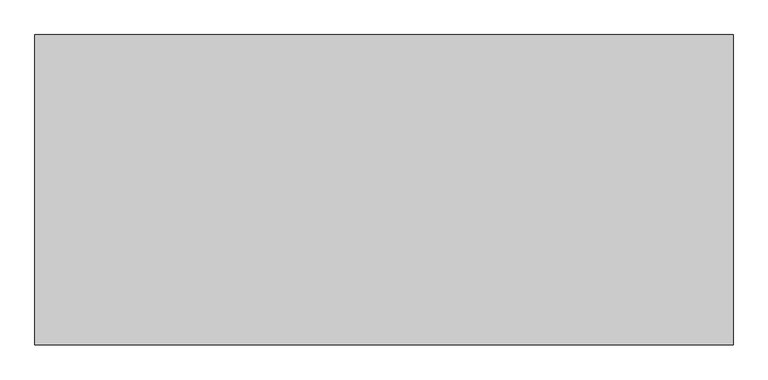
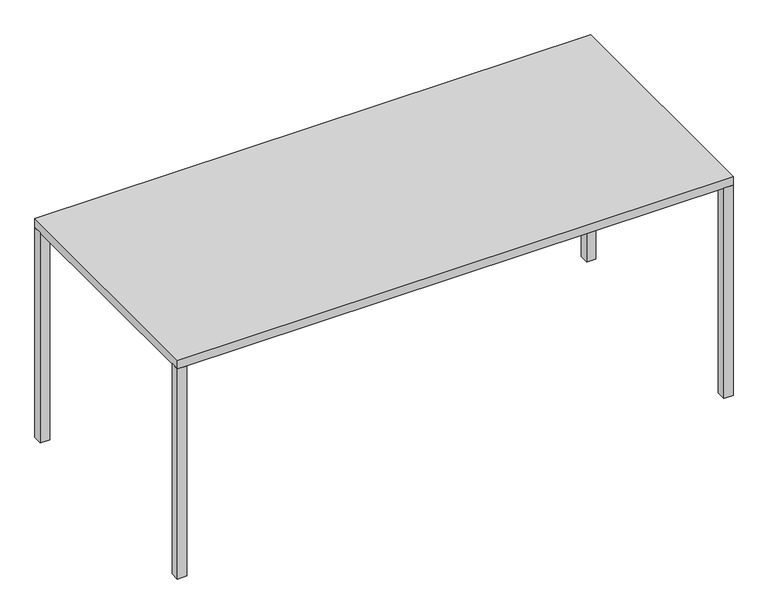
"""IFC4 building model written with IfcOpenShell, lengths in millimetres: furniture geometry, Esstisch mit Stühlen : 140 x 80 x 75 - 4 Stühle."""

from ifc_helpers import new_model, si_unit, frame, origin, origin_with_axes, place, context, project, spatial, polyline, outline, extrude, source, transform, mapped, element, save


def furniture_130fb363(model_context):
    return source(origin(), model_context, "Body", "SweptSolid", [
        extrude(outline(polyline([(-1556.564671, 400.0), (-1556.564671, 370.0), (-1586.564671, 370.0), (-1586.564671, 400.0), (-1556.564671, 400.0)])), origin_with_axes(), (0.0, 0.0, 1.0), 720.0),
        extrude(outline(polyline([(-1556.564671, -400.0), (-1586.564671, -400.0), (-1586.564671, -370.0), (-1556.564671, -370.0), (-1556.564671, -400.0)])), origin_with_axes(), (0.0, 0.0, 1.0), 720.0),
        extrude(outline(polyline([(183.435329, 400.0), (213.435329, 400.0), (213.435329, 370.0), (183.435329, 370.0), (183.435329, 400.0)])), origin_with_axes(), (0.0, 0.0, 1.0), 720.0),
        extrude(outline(polyline([(183.435329, -400.0), (183.435329, -370.0), (213.435329, -370.0), (213.435329, -400.0), (183.435329, -400.0)])), origin_with_axes(), (0.0, 0.0, 1.0), 720.0),
        extrude(outline(polyline([(213.435329, 400.0), (213.435329, -400.0), (-1586.564671, -400.0), (-1586.564671, 400.0), (213.435329, 400.0)])), frame((0.0, 0.0, 720.0), z_axis=(0.0, 0.0, 1.0), x_axis=(1.0, 0.0, 0.0)), (0.0, 0.0, 1.0), 30.0),
    ])


if __name__ == "__main__":
    model = new_model("IFC4")
    model_context = context("Model", 3, world=origin())
    ifc_project = project(units=[si_unit("LENGTHUNIT", "METRE", prefix="MILLI")], contexts=[model_context])
    site = spatial("IfcSite", under=ifc_project)
    building = spatial("IfcBuilding", under=site)
    placement = place(None, origin())
    furniture_shape = furniture_130fb363(model_context)
    element("IfcFurniture", 1, ObjectType="Esstisch mit Stühlen : 140 x 80 x 75 - 4 Stühle", at=placement, inside=building, context=model_context, shape_type="MappedRepresentation", body=[
        mapped(furniture_shape, transform((0.0, 0.0, 0.0), x_axis=(1.0, 0.0, 0.0), y_axis=(0.0, 1.0, 0.0), z_axis=(0.0, 0.0, 1.0))),
    ])
    save(model, "model.ifc")
